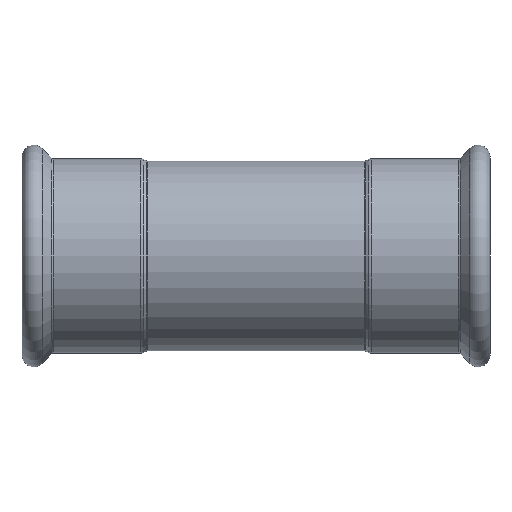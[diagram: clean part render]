
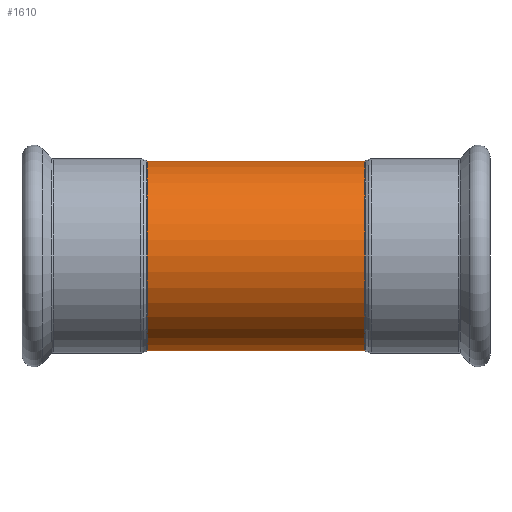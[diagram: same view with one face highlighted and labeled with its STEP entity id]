
A CAD part, front view. The second image highlights one B-rep face of the part: STEP entity #1610.
In plain terms, the highlighted cylindrical face has radius 28 mm (diameter 56 mm), a partial arc.
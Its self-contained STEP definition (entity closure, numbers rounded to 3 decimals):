
#50 = VERTEX_POINT ( 'NONE', #4415 ) ;
#206 = CIRCLE ( 'NONE', #1933, 28. ) ;
#269 = ORIENTED_EDGE ( 'NONE', *, *, #1194, .F. ) ;
#427 = CIRCLE ( 'NONE', #1212, 28. ) ;
#495 = CARTESIAN_POINT ( 'NONE',  ( 32.06, 0., 28. ) ) ;
#852 = EDGE_CURVE ( 'NONE', #1965, #50, #3371, .T. ) ;
#1045 = VERTEX_POINT ( 'NONE', #4223 ) ;
#1194 = EDGE_CURVE ( 'NONE', #1045, #1961, #3706, .T. ) ;
#1212 = AXIS2_PLACEMENT_3D ( 'NONE', #4037, #2292, #2985 ) ;
#1297 = CARTESIAN_POINT ( 'NONE',  ( 27.146, 0., 0. ) ) ;
#1403 = VECTOR ( 'NONE', #2784, 1000. ) ;
#1559 = EDGE_CURVE ( 'NONE', #1961, #50, #206, .T. ) ;
#1610 = ADVANCED_FACE ( 'NONE', ( #3170 ), #3655, .T. ) ;
#1613 = CARTESIAN_POINT ( 'NONE',  ( 27.146, 0., -28. ) ) ;
#1793 = VECTOR ( 'NONE', #1931, 1000. ) ;
#1931 = DIRECTION ( 'NONE',  ( -1., 0., 0. ) ) ;
#1933 = AXIS2_PLACEMENT_3D ( 'NONE', #3722, #1968, #4430 ) ;
#1961 = VERTEX_POINT ( 'NONE', #2255 ) ;
#1965 = VERTEX_POINT ( 'NONE', #495 ) ;
#1968 = DIRECTION ( 'NONE',  ( -1., 0., 0. ) ) ;
#2082 = CARTESIAN_POINT ( 'NONE',  ( 27.146, 0., 28. ) ) ;
#2132 = EDGE_CURVE ( 'NONE', #1045, #1965, #427, .T. ) ;
#2255 = CARTESIAN_POINT ( 'NONE',  ( -32.06, 0., -28. ) ) ;
#2292 = DIRECTION ( 'NONE',  ( -1., 0., 0. ) ) ;
#2399 = AXIS2_PLACEMENT_3D ( 'NONE', #1297, #4414, #3774 ) ;
#2784 = DIRECTION ( 'NONE',  ( -1., 0., 0. ) ) ;
#2985 = DIRECTION ( 'NONE',  ( 0., 0., 1. ) ) ;
#3121 = ORIENTED_EDGE ( 'NONE', *, *, #2132, .T. ) ;
#3170 = FACE_OUTER_BOUND ( 'NONE', #4123, .T. ) ;
#3354 = ORIENTED_EDGE ( 'NONE', *, *, #1559, .F. ) ;
#3371 = LINE ( 'NONE', #2082, #1403 ) ;
#3655 = CYLINDRICAL_SURFACE ( 'NONE', #2399, 28. ) ;
#3706 = LINE ( 'NONE', #1613, #1793 ) ;
#3722 = CARTESIAN_POINT ( 'NONE',  ( -32.06, 0., 0. ) ) ;
#3774 = DIRECTION ( 'NONE',  ( 0., 0., 1. ) ) ;
#4037 = CARTESIAN_POINT ( 'NONE',  ( 32.06, 0., 0. ) ) ;
#4123 = EDGE_LOOP ( 'NONE', ( #269, #3121, #4436, #3354 ) ) ;
#4223 = CARTESIAN_POINT ( 'NONE',  ( 32.06, 0., -28. ) ) ;
#4414 = DIRECTION ( 'NONE',  ( -1., 0., 0. ) ) ;
#4415 = CARTESIAN_POINT ( 'NONE',  ( -32.06, 0., 28. ) ) ;
#4430 = DIRECTION ( 'NONE',  ( 0., 0., 1. ) ) ;
#4436 = ORIENTED_EDGE ( 'NONE', *, *, #852, .T. ) ;
